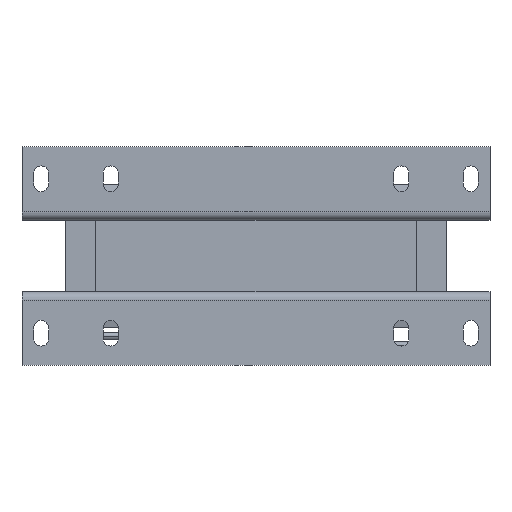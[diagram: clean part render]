
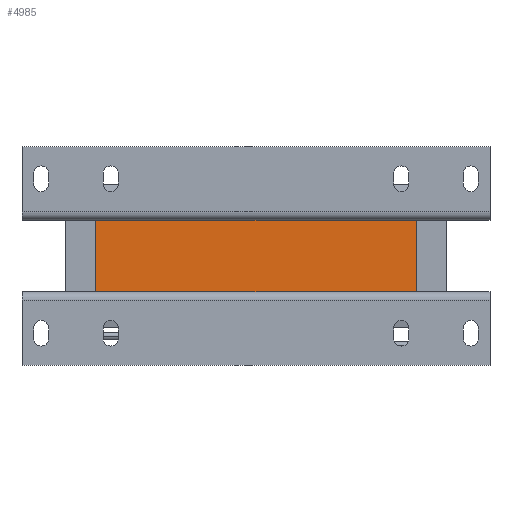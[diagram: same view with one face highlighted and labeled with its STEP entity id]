
A CAD part, front view. The second image highlights one B-rep face of the part: STEP entity #4985.
In plain terms, the highlighted planar face has unit normal (0, -1, 0).
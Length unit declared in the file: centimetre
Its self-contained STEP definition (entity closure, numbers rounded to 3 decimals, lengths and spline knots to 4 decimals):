
#372 = CARTESIAN_POINT ( 'NONE',  ( 7.5, 0.7, 1.665 ) ) ;
#525 = VERTEX_POINT ( 'NONE', #3670 ) ;
#674 = ORIENTED_EDGE ( 'NONE', *, *, #15236, .F. ) ;
#1177 = LINE ( 'NONE', #11923, #3371 ) ;
#2082 = VERTEX_POINT ( 'NONE', #3087 ) ;
#2849 = FACE_OUTER_BOUND ( 'NONE', #12915, .T. ) ;
#2922 = PLANE ( 'NONE',  #16985 ) ;
#3087 = CARTESIAN_POINT ( 'NONE',  ( 7.5, 0.7, -1.665 ) ) ;
#3371 = VECTOR ( 'NONE', #6491, 100. ) ;
#3670 = CARTESIAN_POINT ( 'NONE',  ( -7.5, 0.7, -1.665 ) ) ;
#3800 = VERTEX_POINT ( 'NONE', #5032 ) ;
#3987 = LINE ( 'NONE', #17053, #9816 ) ;
#4985 = ADVANCED_FACE ( 'NONE', ( #2849 ), #2922, .F. ) ;
#5032 = CARTESIAN_POINT ( 'NONE',  ( 7.5, 0.7, 1.665 ) ) ;
#6491 = DIRECTION ( 'NONE',  ( 0., 0., -1. ) ) ;
#7525 = VECTOR ( 'NONE', #16323, 100. ) ;
#8175 = DIRECTION ( 'NONE',  ( 0., 1., 0. ) ) ;
#8453 = EDGE_CURVE ( 'NONE', #9390, #3800, #14930, .T. ) ;
#8976 = DIRECTION ( 'NONE',  ( 1., 0., 0. ) ) ;
#9390 = VERTEX_POINT ( 'NONE', #12646 ) ;
#9725 = ORIENTED_EDGE ( 'NONE', *, *, #15879, .T. ) ;
#9816 = VECTOR ( 'NONE', #8976, 100. ) ;
#10713 = CARTESIAN_POINT ( 'NONE',  ( -7.5, 0.7, 1.665 ) ) ;
#10973 = CARTESIAN_POINT ( 'NONE',  ( -7.5, 0.7, 1.665 ) ) ;
#11923 = CARTESIAN_POINT ( 'NONE',  ( -7.5, 0.7, 1.665 ) ) ;
#12193 = DIRECTION ( 'NONE',  ( 0., 0., 1. ) ) ;
#12646 = CARTESIAN_POINT ( 'NONE',  ( -7.5, 0.7, 1.665 ) ) ;
#12915 = EDGE_LOOP ( 'NONE', ( #15047, #674, #13360, #9725 ) ) ;
#13360 = ORIENTED_EDGE ( 'NONE', *, *, #8453, .F. ) ;
#13756 = EDGE_CURVE ( 'NONE', #525, #2082, #3987, .T. ) ;
#14497 = VECTOR ( 'NONE', #14754, 100. ) ;
#14747 = LINE ( 'NONE', #372, #7525 ) ;
#14754 = DIRECTION ( 'NONE',  ( 1., 0., 0. ) ) ;
#14930 = LINE ( 'NONE', #10713, #14497 ) ;
#15047 = ORIENTED_EDGE ( 'NONE', *, *, #13756, .T. ) ;
#15236 = EDGE_CURVE ( 'NONE', #3800, #2082, #14747, .T. ) ;
#15879 = EDGE_CURVE ( 'NONE', #9390, #525, #1177, .T. ) ;
#16323 = DIRECTION ( 'NONE',  ( 0., 0., -1. ) ) ;
#16985 = AXIS2_PLACEMENT_3D ( 'NONE', #10973, #8175, #12193 ) ;
#17053 = CARTESIAN_POINT ( 'NONE',  ( -7.5, 0.7, -1.665 ) ) ;
